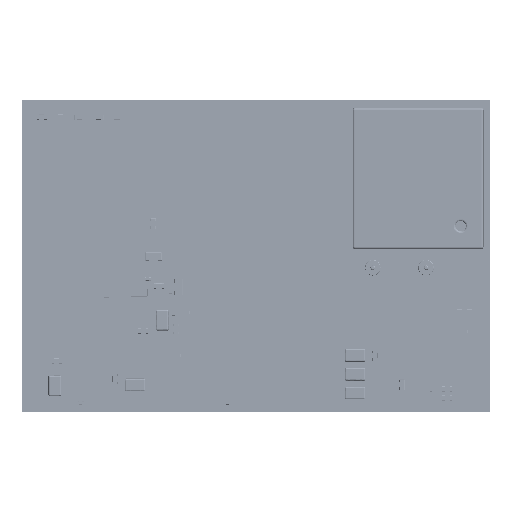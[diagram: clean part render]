
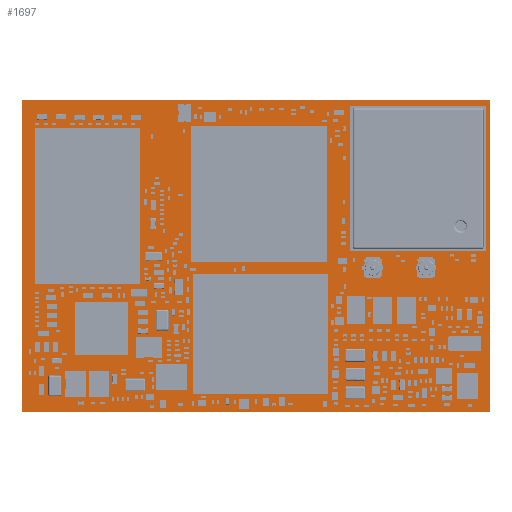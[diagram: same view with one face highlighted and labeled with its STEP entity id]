
A CAD part, top view. The second image highlights one B-rep face of the part: STEP entity #1697.
In plain terms, the highlighted planar face has unit normal (0, 0, 1).
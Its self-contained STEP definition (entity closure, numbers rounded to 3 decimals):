
#1568 = VERTEX_POINT('',#1569);
#1569 = CARTESIAN_POINT('',(0.,0.,1.263));
#1575 = EDGE_CURVE('',#1568,#1576,#1578,.T.);
#1576 = VERTEX_POINT('',#1577);
#1577 = CARTESIAN_POINT('',(0.,29.997,1.263));
#1578 = LINE('',#1579,#1580);
#1579 = CARTESIAN_POINT('',(0.,0.,1.263));
#1580 = VECTOR('',#1581,1.);
#1581 = DIRECTION('',(0.,1.,0.));
#1606 = EDGE_CURVE('',#1576,#1607,#1609,.T.);
#1607 = VERTEX_POINT('',#1608);
#1608 = CARTESIAN_POINT('',(45.,29.997,1.263));
#1609 = LINE('',#1610,#1611);
#1610 = CARTESIAN_POINT('',(0.,29.997,1.263));
#1611 = VECTOR('',#1612,1.);
#1612 = DIRECTION('',(1.,0.,0.));
#1637 = EDGE_CURVE('',#1607,#1638,#1640,.T.);
#1638 = VERTEX_POINT('',#1639);
#1639 = CARTESIAN_POINT('',(45.,0.,1.263));
#1640 = LINE('',#1641,#1642);
#1641 = CARTESIAN_POINT('',(45.,29.997,1.263));
#1642 = VECTOR('',#1643,1.);
#1643 = DIRECTION('',(0.,-1.,0.));
#1668 = EDGE_CURVE('',#1638,#1568,#1669,.T.);
#1669 = LINE('',#1670,#1671);
#1670 = CARTESIAN_POINT('',(45.,0.,1.263));
#1671 = VECTOR('',#1672,1.);
#1672 = DIRECTION('',(-1.,0.,0.));
#1697 = ADVANCED_FACE('',(#1698),#1704,.F.);
#1698 = FACE_BOUND('',#1699,.F.);
#1699 = EDGE_LOOP('',(#1700,#1701,#1702,#1703));
#1700 = ORIENTED_EDGE('',*,*,#1575,.T.);
#1701 = ORIENTED_EDGE('',*,*,#1606,.T.);
#1702 = ORIENTED_EDGE('',*,*,#1637,.T.);
#1703 = ORIENTED_EDGE('',*,*,#1668,.T.);
#1704 = PLANE('',#1705);
#1705 = AXIS2_PLACEMENT_3D('',#1706,#1707,#1708);
#1706 = CARTESIAN_POINT('',(22.5,14.999,1.263));
#1707 = DIRECTION('',(-0.,-0.,-1.));
#1708 = DIRECTION('',(-1.,0.,0.));
